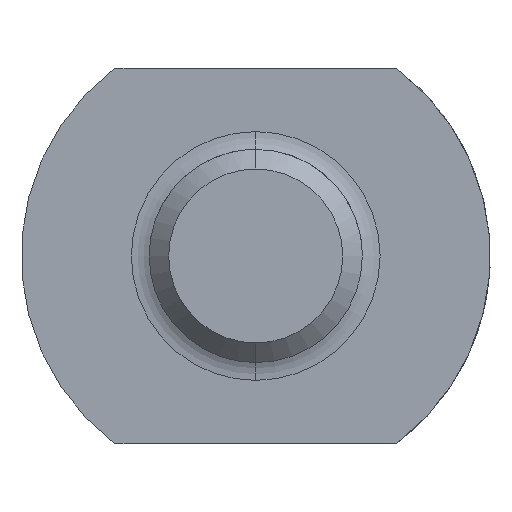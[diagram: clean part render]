
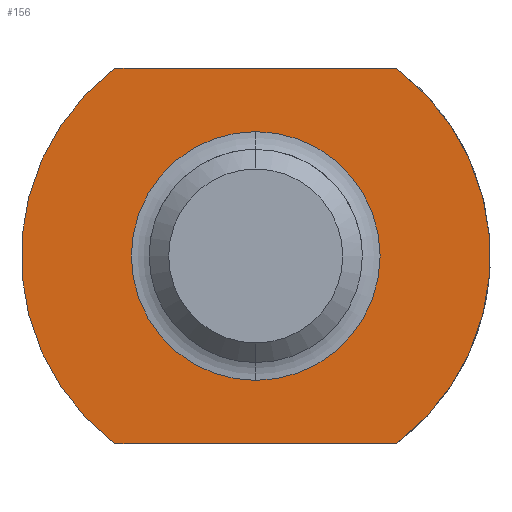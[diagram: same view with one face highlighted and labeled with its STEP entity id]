
A CAD part, left-side view. The second image highlights one B-rep face of the part: STEP entity #156.
In plain terms, the highlighted planar face has unit normal (-1, 0, 0).
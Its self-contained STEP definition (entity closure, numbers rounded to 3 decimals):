
#57=CARTESIAN_POINT('Line Origine',(0.,0.,-8.8)) ;
#61=CARTESIAN_POINT('Vertex',(0.,-6.6,-8.8)) ;
#63=CARTESIAN_POINT('Vertex',(0.,6.6,-8.8)) ;
#92=CARTESIAN_POINT('Axis2P3D Location',(0.,5.833,0.)) ;
#97=CARTESIAN_POINT('Axis2P3D Location',(0.,0.,0.)) ;
#101=CARTESIAN_POINT('Vertex',(0.,6.6,8.8)) ;
#104=CARTESIAN_POINT('Axis2P3D Location',(0.,0.,0.)) ;
#108=CARTESIAN_POINT('Vertex',(0.,-6.6,8.8)) ;
#111=CARTESIAN_POINT('Line Origine',(0.,0.,8.8)) ;
#122=CARTESIAN_POINT('Axis2P3D Location',(0.,0.,0.)) ;
#126=CARTESIAN_POINT('Vertex',(0.,5.833,0.)) ;
#128=CARTESIAN_POINT('Vertex',(0.,0.,5.833)) ;
#131=CARTESIAN_POINT('Axis2P3D Location',(0.,0.,0.)) ;
#135=CARTESIAN_POINT('Vertex',(0.,-5.833,0.)) ;
#138=CARTESIAN_POINT('Axis2P3D Location',(0.,0.,0.)) ;
#142=CARTESIAN_POINT('Vertex',(0.,0.,-5.833)) ;
#145=CARTESIAN_POINT('Axis2P3D Location',(0.,0.,0.)) ;
#58=DIRECTION('Vector Direction',(0.,1.,0.)) ;
#93=DIRECTION('Axis2P3D Direction',(1.,0.,-0.)) ;
#94=DIRECTION('Axis2P3D XDirection',(-0.,0.,-1.)) ;
#98=DIRECTION('Axis2P3D Direction',(1.,0.,-0.)) ;
#105=DIRECTION('Axis2P3D Direction',(1.,0.,-0.)) ;
#112=DIRECTION('Vector Direction',(0.,-1.,0.)) ;
#123=DIRECTION('Axis2P3D Direction',(1.,0.,-0.)) ;
#132=DIRECTION('Axis2P3D Direction',(1.,0.,-0.)) ;
#139=DIRECTION('Axis2P3D Direction',(1.,0.,-0.)) ;
#146=DIRECTION('Axis2P3D Direction',(1.,0.,-0.)) ;
#95=AXIS2_PLACEMENT_3D('Plane Axis2P3D',#92,#93,#94) ;
#99=AXIS2_PLACEMENT_3D('Circle Axis2P3D',#97,#98,$) ;
#106=AXIS2_PLACEMENT_3D('Circle Axis2P3D',#104,#105,$) ;
#124=AXIS2_PLACEMENT_3D('Circle Axis2P3D',#122,#123,$) ;
#133=AXIS2_PLACEMENT_3D('Circle Axis2P3D',#131,#132,$) ;
#140=AXIS2_PLACEMENT_3D('Circle Axis2P3D',#138,#139,$) ;
#147=AXIS2_PLACEMENT_3D('Circle Axis2P3D',#145,#146,$) ;
#117=ORIENTED_EDGE('',*,*,#103,.F.) ;
#118=ORIENTED_EDGE('',*,*,#65,.F.) ;
#119=ORIENTED_EDGE('',*,*,#110,.F.) ;
#120=ORIENTED_EDGE('',*,*,#115,.F.) ;
#151=ORIENTED_EDGE('',*,*,#130,.T.) ;
#152=ORIENTED_EDGE('',*,*,#137,.T.) ;
#153=ORIENTED_EDGE('',*,*,#144,.T.) ;
#154=ORIENTED_EDGE('',*,*,#149,.T.) ;
#155=FACE_BOUND('',#150,.T.) ;
#59=VECTOR('Line Direction',#58,1.) ;
#113=VECTOR('Line Direction',#112,1.) ;
#156=ADVANCED_FACE('AGS3301M10',(#121,#155),#96,.F.) ;
#100=CIRCLE('generated circle',#99,11.) ;
#107=CIRCLE('generated circle',#106,11.) ;
#125=CIRCLE('generated circle',#124,5.833) ;
#134=CIRCLE('generated circle',#133,5.833) ;
#141=CIRCLE('generated circle',#140,5.833) ;
#148=CIRCLE('generated circle',#147,5.833) ;
#65=EDGE_CURVE('',#62,#64,#60,.T.) ;
#103=EDGE_CURVE('',#64,#102,#100,.T.) ;
#110=EDGE_CURVE('',#109,#62,#107,.T.) ;
#115=EDGE_CURVE('',#102,#109,#114,.T.) ;
#130=EDGE_CURVE('',#127,#129,#125,.T.) ;
#137=EDGE_CURVE('',#129,#136,#134,.T.) ;
#144=EDGE_CURVE('',#136,#143,#141,.T.) ;
#149=EDGE_CURVE('',#143,#127,#148,.T.) ;
#116=EDGE_LOOP('',(#117,#118,#119,#120)) ;
#150=EDGE_LOOP('',(#151,#152,#153,#154)) ;
#121=FACE_OUTER_BOUND('',#116,.T.) ;
#60=LINE('Line',#57,#59) ;
#114=LINE('Line',#111,#113) ;
#96=PLANE('Plane',#95) ;
#62=VERTEX_POINT('',#61) ;
#64=VERTEX_POINT('',#63) ;
#102=VERTEX_POINT('',#101) ;
#109=VERTEX_POINT('',#108) ;
#127=VERTEX_POINT('',#126) ;
#129=VERTEX_POINT('',#128) ;
#136=VERTEX_POINT('',#135) ;
#143=VERTEX_POINT('',#142) ;
